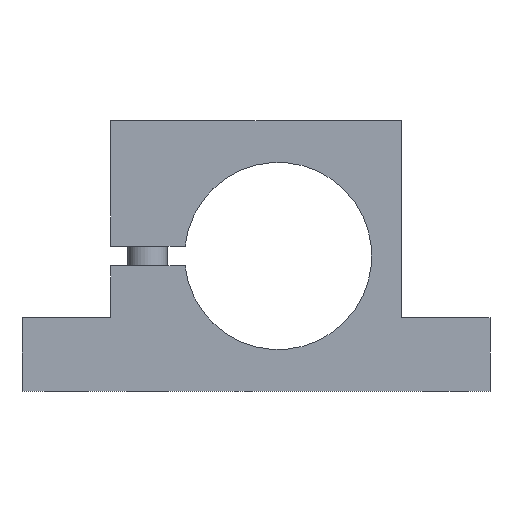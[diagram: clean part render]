
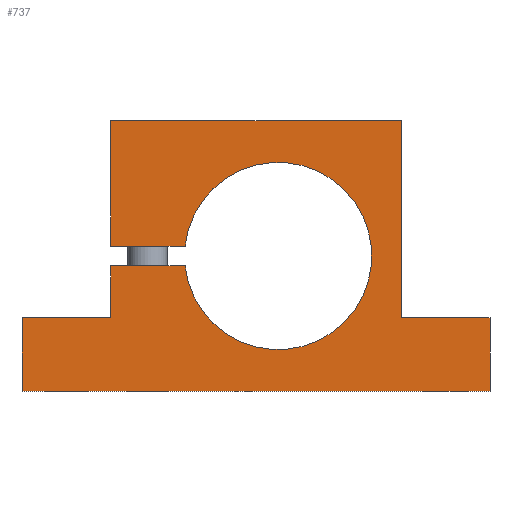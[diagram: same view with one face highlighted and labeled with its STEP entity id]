
A CAD part, front view. The second image highlights one B-rep face of the part: STEP entity #737.
In plain terms, the highlighted planar face has unit normal (0, -1, 0).
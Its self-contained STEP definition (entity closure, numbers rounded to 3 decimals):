
#256=CARTESIAN_POINT('Vertex',(-18.894,0.,-2.)) ;
#261=CARTESIAN_POINT('Axis2P3D Location',(0.,0.,0.)) ;
#265=CARTESIAN_POINT('Vertex',(-18.894,0.,2.)) ;
#296=CARTESIAN_POINT('Vertex',(-34.,0.,-12.5)) ;
#301=CARTESIAN_POINT('Line Origine',(-34.,0.,-7.25)) ;
#305=CARTESIAN_POINT('Vertex',(-34.,0.,-2.)) ;
#336=CARTESIAN_POINT('Vertex',(-52.,0.,-12.5)) ;
#341=CARTESIAN_POINT('Line Origine',(-43.,0.,-12.5)) ;
#385=CARTESIAN_POINT('Vertex',(25.,0.,27.5)) ;
#390=CARTESIAN_POINT('Line Origine',(25.,0.,7.5)) ;
#394=CARTESIAN_POINT('Vertex',(25.,0.,-12.5)) ;
#425=CARTESIAN_POINT('Vertex',(-34.,0.,27.5)) ;
#430=CARTESIAN_POINT('Line Origine',(-4.5,0.,27.5)) ;
#455=CARTESIAN_POINT('Vertex',(-34.,0.,2.)) ;
#460=CARTESIAN_POINT('Line Origine',(-34.,0.,14.75)) ;
#482=CARTESIAN_POINT('Line Origine',(-26.447,0.,2.)) ;
#503=CARTESIAN_POINT('Line Origine',(34.,0.,-12.5)) ;
#507=CARTESIAN_POINT('Vertex',(43.,0.,-12.5)) ;
#686=CARTESIAN_POINT('Vertex',(-52.,0.,-27.5)) ;
#689=CARTESIAN_POINT('Line Origine',(-52.,0.,-20.)) ;
#701=CARTESIAN_POINT('Axis2P3D Location',(0.,0.,0.)) ;
#706=CARTESIAN_POINT('Line Origine',(-26.447,0.,-2.)) ;
#711=CARTESIAN_POINT('Line Origine',(-4.5,0.,-27.5)) ;
#715=CARTESIAN_POINT('Vertex',(43.,0.,-27.5)) ;
#718=CARTESIAN_POINT('Line Origine',(43.,0.,-20.)) ;
#262=DIRECTION('Axis2P3D Direction',(0.,1.,0.)) ;
#302=DIRECTION('Vector Direction',(0.,0.,1.)) ;
#342=DIRECTION('Vector Direction',(1.,0.,0.)) ;
#391=DIRECTION('Vector Direction',(0.,0.,1.)) ;
#431=DIRECTION('Vector Direction',(-1.,0.,0.)) ;
#461=DIRECTION('Vector Direction',(0.,0.,1.)) ;
#483=DIRECTION('Vector Direction',(-1.,0.,0.)) ;
#504=DIRECTION('Vector Direction',(-1.,0.,0.)) ;
#690=DIRECTION('Vector Direction',(0.,0.,1.)) ;
#702=DIRECTION('Axis2P3D Direction',(0.,1.,0.)) ;
#703=DIRECTION('Axis2P3D XDirection',(-1.,0.,0.)) ;
#707=DIRECTION('Vector Direction',(1.,0.,0.)) ;
#712=DIRECTION('Vector Direction',(-1.,0.,0.)) ;
#719=DIRECTION('Vector Direction',(0.,0.,1.)) ;
#263=AXIS2_PLACEMENT_3D('Circle Axis2P3D',#261,#262,$) ;
#704=AXIS2_PLACEMENT_3D('Plane Axis2P3D',#701,#702,#703) ;
#724=ORIENTED_EDGE('',*,*,#267,.F.) ;
#725=ORIENTED_EDGE('',*,*,#710,.F.) ;
#726=ORIENTED_EDGE('',*,*,#307,.F.) ;
#727=ORIENTED_EDGE('',*,*,#345,.F.) ;
#728=ORIENTED_EDGE('',*,*,#693,.F.) ;
#729=ORIENTED_EDGE('',*,*,#717,.F.) ;
#730=ORIENTED_EDGE('',*,*,#722,.F.) ;
#731=ORIENTED_EDGE('',*,*,#509,.F.) ;
#732=ORIENTED_EDGE('',*,*,#396,.F.) ;
#733=ORIENTED_EDGE('',*,*,#434,.F.) ;
#734=ORIENTED_EDGE('',*,*,#464,.F.) ;
#735=ORIENTED_EDGE('',*,*,#486,.F.) ;
#303=VECTOR('Line Direction',#302,1.) ;
#343=VECTOR('Line Direction',#342,1.) ;
#392=VECTOR('Line Direction',#391,1.) ;
#432=VECTOR('Line Direction',#431,1.) ;
#462=VECTOR('Line Direction',#461,1.) ;
#484=VECTOR('Line Direction',#483,1.) ;
#505=VECTOR('Line Direction',#504,1.) ;
#691=VECTOR('Line Direction',#690,1.) ;
#708=VECTOR('Line Direction',#707,1.) ;
#713=VECTOR('Line Direction',#712,1.) ;
#720=VECTOR('Line Direction',#719,1.) ;
#737=ADVANCED_FACE('',(#736),#705,.F.) ;
#264=CIRCLE('generated circle',#263,19.) ;
#267=EDGE_CURVE('',#257,#266,#264,.F.) ;
#307=EDGE_CURVE('',#297,#306,#304,.T.) ;
#345=EDGE_CURVE('',#337,#297,#344,.T.) ;
#396=EDGE_CURVE('',#386,#395,#393,.F.) ;
#434=EDGE_CURVE('',#426,#386,#433,.F.) ;
#464=EDGE_CURVE('',#456,#426,#463,.T.) ;
#486=EDGE_CURVE('',#266,#456,#485,.T.) ;
#509=EDGE_CURVE('',#395,#508,#506,.F.) ;
#693=EDGE_CURVE('',#687,#337,#692,.T.) ;
#710=EDGE_CURVE('',#306,#257,#709,.T.) ;
#717=EDGE_CURVE('',#716,#687,#714,.T.) ;
#722=EDGE_CURVE('',#508,#716,#721,.F.) ;
#723=EDGE_LOOP('',(#724,#725,#726,#727,#728,#729,#730,#731,#732,#733,#734,#735)) ;
#736=FACE_OUTER_BOUND('',#723,.T.) ;
#304=LINE('Line',#301,#303) ;
#344=LINE('Line',#341,#343) ;
#393=LINE('Line',#390,#392) ;
#433=LINE('Line',#430,#432) ;
#463=LINE('Line',#460,#462) ;
#485=LINE('Line',#482,#484) ;
#506=LINE('Line',#503,#505) ;
#692=LINE('Line',#689,#691) ;
#709=LINE('Line',#706,#708) ;
#714=LINE('Line',#711,#713) ;
#721=LINE('Line',#718,#720) ;
#705=PLANE('Plane',#704) ;
#257=VERTEX_POINT('',#256) ;
#266=VERTEX_POINT('',#265) ;
#297=VERTEX_POINT('',#296) ;
#306=VERTEX_POINT('',#305) ;
#337=VERTEX_POINT('',#336) ;
#386=VERTEX_POINT('',#385) ;
#395=VERTEX_POINT('',#394) ;
#426=VERTEX_POINT('',#425) ;
#456=VERTEX_POINT('',#455) ;
#508=VERTEX_POINT('',#507) ;
#687=VERTEX_POINT('',#686) ;
#716=VERTEX_POINT('',#715) ;
